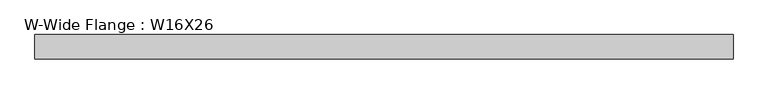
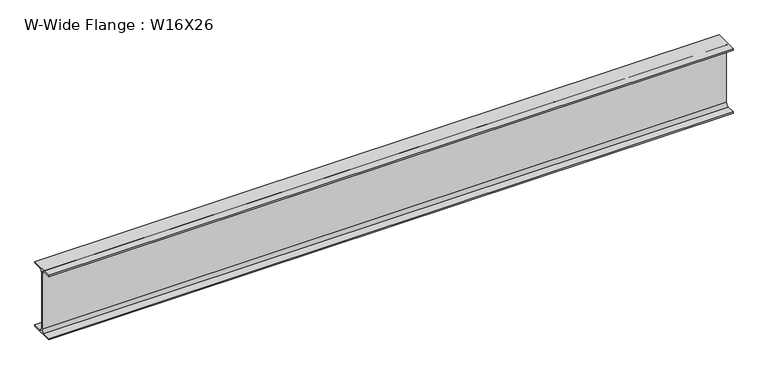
"""IFC4 building model written with IfcOpenShell, lengths in millimetres: beam geometry, W-Wide Flange : W16X26."""

from ifc_helpers import new_model, si_unit, point, frame, frame_2d, origin, place, context, project, spatial, polyline, circle_curve, trimmed, segment, composite_curve, outline, extrude, source, transform, mapped, element, save


def w_wide_flange_w16x26_e7c4c9f7(model_context):
    return source(origin(), model_context, "Body", "SweptSolid", [
        extrude(outline(composite_curve([segment(polyline([(-69.85, -190.5496094), (-21.43125, -190.5496094)]), True, "CONTINUOUS"), segment(trimmed(circle_curve(frame_2d((-21.43125, -172.2933594)), 18.25625), [point((-21.43125, -190.5496094))], [point((-3.175, -172.2933594))], True, "CARTESIAN"), True, "CONTINUOUS"), segment(polyline([(-3.175, -172.2933594), (-3.175, 172.2933594)]), True, "CONTINUOUS"), segment(trimmed(circle_curve(frame_2d((-21.43125, 172.2933594)), 18.25625), [point((-3.175, 172.2933594))], [point((-21.43125, 190.5496094))], True, "CARTESIAN"), True, "CONTINUOUS"), segment(polyline([(-21.43125, 190.5496094), (-69.85, 190.5496094), (-69.85, 199.2808594), (69.85, 199.2808594), (69.85, 190.5496094), (21.43125, 190.5496094)]), True, "CONTINUOUS"), segment(trimmed(circle_curve(frame_2d((21.43125, 172.2933594)), 18.25625), [point((21.43125, 190.5496094))], [point((3.175, 172.2933594))], True, "CARTESIAN"), True, "CONTINUOUS"), segment(polyline([(3.175, 172.2933594), (3.175, -172.2933594)]), True, "CONTINUOUS"), segment(trimmed(circle_curve(frame_2d((21.43125, -172.2933594)), 18.25625), [point((3.175, -172.2933594))], [point((21.43125, -190.5496094))], True, "CARTESIAN"), True, "CONTINUOUS"), segment(polyline([(21.43125, -190.5496094), (69.85, -190.5496094), (69.85, -199.2808594), (-69.85, -199.2808594), (-69.85, -190.5496094)]), True, "CONTINUOUS")], self_intersect=False)), frame((-1993.9, 0.0, 0.0), z_axis=(1.0, 0.0, 0.0), x_axis=(0.0, 1.0, 0.0)), (0.0, 0.0, 1.0), 3987.8),
    ])


if __name__ == "__main__":
    model = new_model("IFC4")
    model_context = context("Model", 3, world=origin())
    ifc_project = project(units=[si_unit("LENGTHUNIT", "METRE", prefix="MILLI")], contexts=[model_context])
    site = spatial("IfcSite", under=ifc_project)
    building = spatial("IfcBuilding", under=site)
    placement = place(None, origin())
    w_wide_flange_w16x26_shape = w_wide_flange_w16x26_e7c4c9f7(model_context)
    element("IfcBeam", 1, ObjectType="W-Wide Flange : W16X26", at=placement, inside=building, context=model_context, shape_type="MappedRepresentation", body=[
        mapped(w_wide_flange_w16x26_shape, transform((0.0, 0.0, 0.0), x_axis=(1.0, 0.0, 0.0), y_axis=(0.0, 1.0, 0.0), z_axis=(0.0, 0.0, 1.0))),
    ])
    save(model, "model.ifc")
